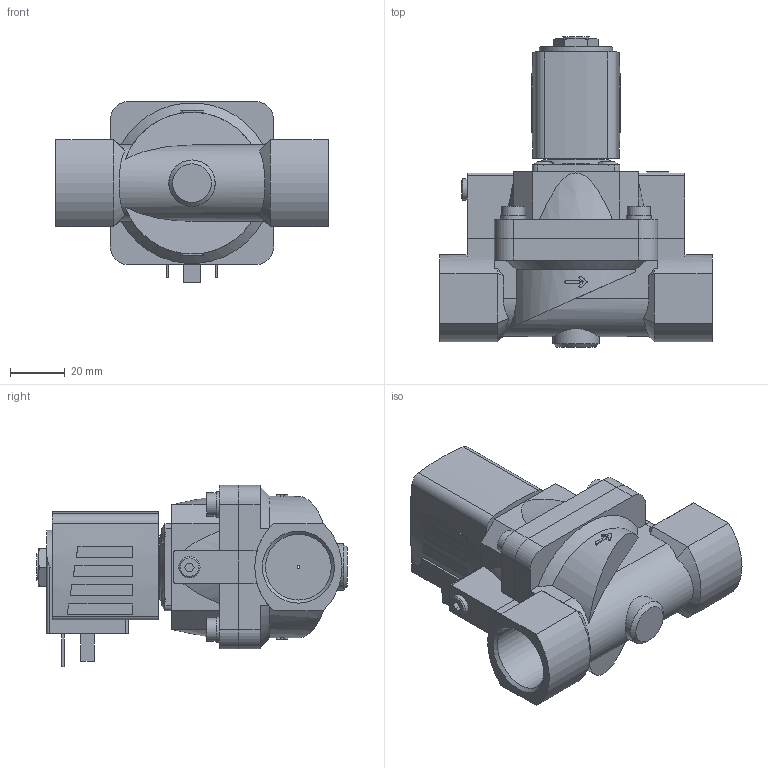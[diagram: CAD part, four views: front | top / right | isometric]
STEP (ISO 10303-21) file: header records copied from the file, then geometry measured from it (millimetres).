
FILE_DESCRIPTION(/* description */ ('STEP AP214'),/* implementation_level */ '2;1');
FILE_NAME(/* name */ '5404-295271-Servo-assisted_2_2_way_piston_valve',/* time_stamp */ '2024-02-27T17:56:35+01:00',/* author */ ('License CC BY-ND 4.0'),/* organization */ ('CADENAS'),/* preprocessor_version */ 'ST-DEVELOPER v19.3',/* originating_system */ 'PARTsolutions',/* authorisation */ ' ');
FILE_SCHEMA (('AUTOMOTIVE_DESIGN {1 0 10303 214 3 1 1}'));
Length unit declared in the file: millimetre
Products named in the file (4): 5404-295271-Servo-assisted 2/2 way piston valve; 5282g-8520MS000-2/2-Wege-Magnetventil_Gehaeuse; 5282d-20MSAU3J-2/2-Wege-Magnetventil_Deckel; AC10ex-5NA38-Plan-Coil
Assembly tree (3 placements, depth 2):
  5404-295271-Servo-assisted 2/2 way piston valve
    5282g-8520MS000-2/2-Wege-Magnetventil_Gehaeuse
    5282d-20MSAU3J-2/2-Wege-Magnetventil_Deckel
    AC10ex-5NA38-Plan-Coil
Bounding box: 100 x 114.1 x 66.5 mm (x, y, z)
Volume: 231436.9 mm3; surface area: 45940.4 mm2
Topology: 3 solids, 3 shells, 311 faces, 772 edges, 509 vertices
Faces by surface type: plane 195, cylinder 85, cone 26, torus 5
Full cylindrical faces by diameter (mm): 1 x1, 2.013 x1, 4 x4, 7.5 x4, 7.6 x4, 7.8 x1, 8.5 x4, 9.2 x4, 9.74 x1, 17 x1, 21 x1, 24.117 x2
Entity records: 9850 total; most frequent: CARTESIAN_POINT 1817, DIRECTION 1514, ORIENTED_EDGE 1444, EDGE_CURVE 722, AXIS2_PLACEMENT_3D 540, VERTEX_POINT 498, LINE 434, VECTOR 434
